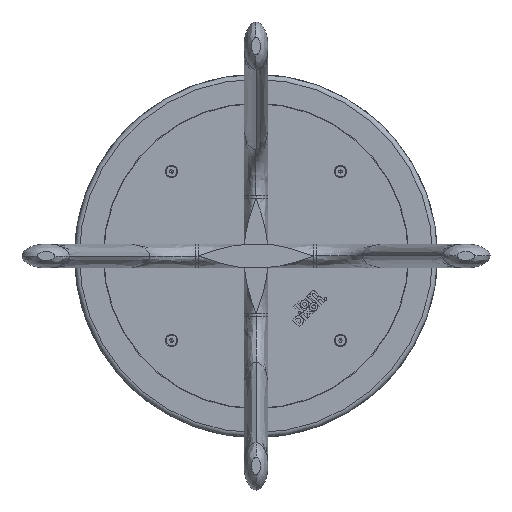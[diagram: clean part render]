
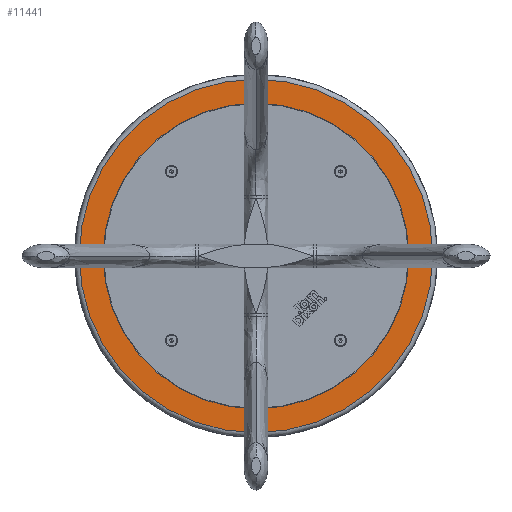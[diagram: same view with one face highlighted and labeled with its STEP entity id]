
A CAD part, front view. The second image highlights one B-rep face of the part: STEP entity #11441.
In plain terms, the highlighted planar face has unit normal (0, -1, 0).
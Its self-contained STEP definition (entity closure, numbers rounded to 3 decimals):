
#533 = EDGE_CURVE ( 'NONE', #11204, #7929, #2822, .T. ) ;
#565 = CIRCLE ( 'NONE', #7207, 185. ) ;
#723 = VERTEX_POINT ( 'NONE', #10056 ) ;
#1000 = EDGE_CURVE ( 'NONE', #723, #9404, #1576, .T. ) ;
#1576 = CIRCLE ( 'NONE', #3871, 160. ) ;
#1589 = AXIS2_PLACEMENT_3D ( 'NONE', #10654, #1637, #8811 ) ;
#1637 = DIRECTION ( 'NONE',  ( 0., -1., 0. ) ) ;
#2822 = CIRCLE ( 'NONE', #10144, 185. ) ;
#2986 = DIRECTION ( 'NONE',  ( 0., -1., 0. ) ) ;
#3731 = EDGE_CURVE ( 'NONE', #7929, #11204, #565, .T. ) ;
#3827 = EDGE_CURVE ( 'NONE', #9404, #723, #8256, .T. ) ;
#3871 = AXIS2_PLACEMENT_3D ( 'NONE', #11314, #8365, #8237 ) ;
#4535 = PLANE ( 'NONE',  #10087 ) ;
#5647 = FACE_OUTER_BOUND ( 'NONE', #8038, .T. ) ;
#5712 = DIRECTION ( 'NONE',  ( 0., -1., 0. ) ) ;
#5826 = DIRECTION ( 'NONE',  ( 0., -1., 0. ) ) ;
#5850 = CARTESIAN_POINT ( 'NONE',  ( 0., 424., 0. ) ) ;
#5925 = CARTESIAN_POINT ( 'NONE',  ( 0., 424., 185. ) ) ;
#6221 = ORIENTED_EDGE ( 'NONE', *, *, #3731, .T. ) ;
#7207 = AXIS2_PLACEMENT_3D ( 'NONE', #9822, #5826, #12876 ) ;
#7536 = DIRECTION ( 'NONE',  ( 0., 0., -1. ) ) ;
#7929 = VERTEX_POINT ( 'NONE', #10618 ) ;
#8038 = EDGE_LOOP ( 'NONE', ( #6221, #10003 ) ) ;
#8237 = DIRECTION ( 'NONE',  ( 0., 0., -1. ) ) ;
#8256 = CIRCLE ( 'NONE', #1589, 160. ) ;
#8365 = DIRECTION ( 'NONE',  ( 0., -1., 0. ) ) ;
#8811 = DIRECTION ( 'NONE',  ( 0., 0., -1. ) ) ;
#9404 = VERTEX_POINT ( 'NONE', #12779 ) ;
#9579 = CARTESIAN_POINT ( 'NONE',  ( 0., 424., 0. ) ) ;
#9709 = FACE_BOUND ( 'NONE', #11046, .T. ) ;
#9794 = ORIENTED_EDGE ( 'NONE', *, *, #3827, .F. ) ;
#9822 = CARTESIAN_POINT ( 'NONE',  ( 0., 424., 0. ) ) ;
#9846 = DIRECTION ( 'NONE',  ( 0., 0., -1. ) ) ;
#10003 = ORIENTED_EDGE ( 'NONE', *, *, #533, .T. ) ;
#10056 = CARTESIAN_POINT ( 'NONE',  ( 0., 424., 160. ) ) ;
#10087 = AXIS2_PLACEMENT_3D ( 'NONE', #9579, #5712, #7536 ) ;
#10144 = AXIS2_PLACEMENT_3D ( 'NONE', #5850, #2986, #9846 ) ;
#10618 = CARTESIAN_POINT ( 'NONE',  ( 0., 424., -185. ) ) ;
#10654 = CARTESIAN_POINT ( 'NONE',  ( 0., 424., 0. ) ) ;
#11046 = EDGE_LOOP ( 'NONE', ( #9794, #12853 ) ) ;
#11204 = VERTEX_POINT ( 'NONE', #5925 ) ;
#11314 = CARTESIAN_POINT ( 'NONE',  ( 0., 424., 0. ) ) ;
#11441 = ADVANCED_FACE ( 'NONE', ( #9709, #5647 ), #4535, .T. ) ;
#12779 = CARTESIAN_POINT ( 'NONE',  ( 0., 424., -160. ) ) ;
#12853 = ORIENTED_EDGE ( 'NONE', *, *, #1000, .F. ) ;
#12876 = DIRECTION ( 'NONE',  ( 0., 0., -1. ) ) ;
